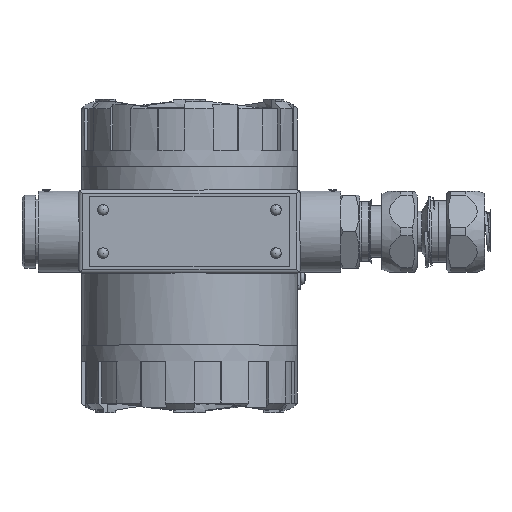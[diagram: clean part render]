
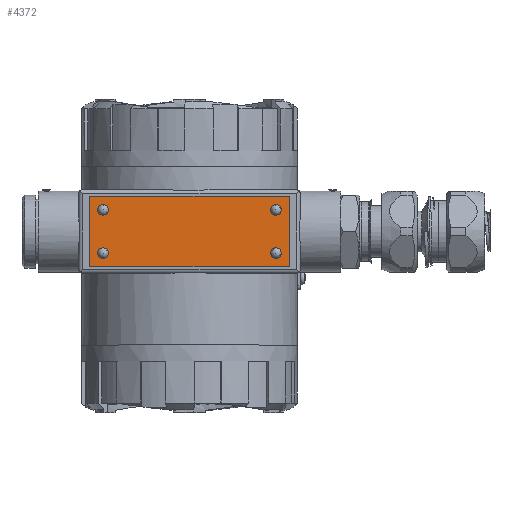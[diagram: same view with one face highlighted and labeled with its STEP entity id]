
A CAD part, top view. The second image highlights one B-rep face of the part: STEP entity #4372.
In plain terms, the highlighted planar face has unit normal (0, 0, 1).
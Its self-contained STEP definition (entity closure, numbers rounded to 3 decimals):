
#4372=ADVANCED_FACE('',(#125054,#125056,#125058,#125060,#125062),#125064,.T.);
#125054=FACE_BOUND('',#125055,.T.);
#125055=EDGE_LOOP('',(#442078,#442079,#442080,#442081));
#125056=FACE_BOUND('',#125057,.T.);
#125057=EDGE_LOOP('',(#442082,#442083));
#125058=FACE_BOUND('',#125059,.T.);
#125059=EDGE_LOOP('',(#442084,#442085));
#125060=FACE_BOUND('',#125061,.T.);
#125061=EDGE_LOOP('',(#442086,#442087));
#125062=FACE_BOUND('',#125063,.T.);
#125063=EDGE_LOOP('',(#442088,#442089));
#125064=PLANE('',#125065);
#125065=AXIS2_PLACEMENT_3D('',#125066,#125067,#125068);
#125066=CARTESIAN_POINT('',(0.,9.,158.5));
#125067=DIRECTION('',(0.,0.,1.));
#125068=DIRECTION('',(1.,0.,0.));
#442078=ORIENTED_EDGE('',*,*,#455154,.F.);
#442079=ORIENTED_EDGE('',*,*,#455164,.F.);
#442080=ORIENTED_EDGE('',*,*,#455161,.F.);
#442081=ORIENTED_EDGE('',*,*,#455158,.F.);
#442082=ORIENTED_EDGE('',*,*,#455143,.T.);
#442083=ORIENTED_EDGE('',*,*,#455142,.T.);
#442084=ORIENTED_EDGE('',*,*,#455148,.T.);
#442085=ORIENTED_EDGE('',*,*,#455149,.T.);
#442086=ORIENTED_EDGE('',*,*,#455152,.T.);
#442087=ORIENTED_EDGE('',*,*,#455153,.T.);
#442088=ORIENTED_EDGE('',*,*,#455139,.T.);
#442089=ORIENTED_EDGE('',*,*,#455138,.T.);
#455138=EDGE_CURVE('',#463121,#463122,#463123,.T.);
#455139=EDGE_CURVE('',#463122,#463121,#463124,.T.);
#455142=EDGE_CURVE('',#463129,#463130,#463131,.T.);
#455143=EDGE_CURVE('',#463130,#463129,#463132,.T.);
#455148=EDGE_CURVE('',#463141,#463142,#463143,.T.);
#455149=EDGE_CURVE('',#463142,#463141,#463144,.T.);
#455152=EDGE_CURVE('',#463149,#463150,#463151,.T.);
#455153=EDGE_CURVE('',#463150,#463149,#463152,.T.);
#455154=EDGE_CURVE('',#463153,#463154,#463155,.T.);
#455158=EDGE_CURVE('',#463154,#463161,#463162,.T.);
#455161=EDGE_CURVE('',#463161,#463166,#463167,.T.);
#455164=EDGE_CURVE('',#463166,#463153,#463171,.T.);
#463121=VERTEX_POINT('',#485962);
#463122=VERTEX_POINT('',#485963);
#463123=CIRCLE('',#485964,1.45);
#463124=CIRCLE('',#485968,1.45);
#463129=VERTEX_POINT('',#485982);
#463130=VERTEX_POINT('',#485983);
#463131=CIRCLE('',#485984,1.45);
#463132=CIRCLE('',#485988,1.45);
#463141=VERTEX_POINT('',#486012);
#463142=VERTEX_POINT('',#486013);
#463143=CIRCLE('',#486014,1.45);
#463144=CIRCLE('',#486018,1.45);
#463149=VERTEX_POINT('',#486032);
#463150=VERTEX_POINT('',#486033);
#463151=CIRCLE('',#486034,1.45);
#463152=CIRCLE('',#486038,1.45);
#463153=VERTEX_POINT('',#486042);
#463154=VERTEX_POINT('',#486043);
#463155=LINE('',#486044,#486045);
#463161=VERTEX_POINT('',#486058);
#463162=LINE('',#486059,#486060);
#463166=VERTEX_POINT('',#486069);
#463167=LINE('',#486070,#486071);
#463171=LINE('',#486080,#486081);
#485962=CARTESIAN_POINT('',(32.,-0.45,158.5));
#485963=CARTESIAN_POINT('',(33.45,1.,158.5));
#485964=AXIS2_PLACEMENT_3D('',#485965,#485966,#485967);
#485965=CARTESIAN_POINT('',(32.,1.,158.5));
#485966=DIRECTION('',(0.,0.,-1.));
#485967=DIRECTION('',(0.,-1.,0.));
#485968=AXIS2_PLACEMENT_3D('',#485969,#485970,#485971);
#485969=CARTESIAN_POINT('',(32.,1.,158.5));
#485970=DIRECTION('',(0.,0.,-1.));
#485971=DIRECTION('',(1.,0.,0.));
#485982=CARTESIAN_POINT('',(32.,18.45,158.5));
#485983=CARTESIAN_POINT('',(33.45,17.,158.5));
#485984=AXIS2_PLACEMENT_3D('',#485985,#485986,#485987);
#485985=CARTESIAN_POINT('',(32.,17.,158.5));
#485986=DIRECTION('',(0.,0.,-1.));
#485987=DIRECTION('',(0.,1.,0.));
#485988=AXIS2_PLACEMENT_3D('',#485989,#485990,#485991);
#485989=CARTESIAN_POINT('',(32.,17.,158.5));
#485990=DIRECTION('',(0.,0.,-1.));
#485991=DIRECTION('',(1.,0.,0.));
#486012=CARTESIAN_POINT('',(-33.45,17.,158.5));
#486013=CARTESIAN_POINT('',(-32.,18.45,158.5));
#486014=AXIS2_PLACEMENT_3D('',#486015,#486016,#486017);
#486015=CARTESIAN_POINT('',(-32.,17.,158.5));
#486016=DIRECTION('',(0.,0.,-1.));
#486017=DIRECTION('',(-1.,0.,0.));
#486018=AXIS2_PLACEMENT_3D('',#486019,#486020,#486021);
#486019=CARTESIAN_POINT('',(-32.,17.,158.5));
#486020=DIRECTION('',(0.,0.,-1.));
#486021=DIRECTION('',(0.,1.,0.));
#486032=CARTESIAN_POINT('',(-33.45,1.,158.5));
#486033=CARTESIAN_POINT('',(-32.,-0.45,158.5));
#486034=AXIS2_PLACEMENT_3D('',#486035,#486036,#486037);
#486035=CARTESIAN_POINT('',(-32.,1.,158.5));
#486036=DIRECTION('',(0.,0.,-1.));
#486037=DIRECTION('',(-1.,0.,0.));
#486038=AXIS2_PLACEMENT_3D('',#486039,#486040,#486041);
#486039=CARTESIAN_POINT('',(-32.,1.,158.5));
#486040=DIRECTION('',(0.,0.,-1.));
#486041=DIRECTION('',(0.,-1.,0.));
#486042=CARTESIAN_POINT('',(37.,22.,158.5));
#486043=CARTESIAN_POINT('',(37.,-4.,158.5));
#486044=CARTESIAN_POINT('',(37.,22.,158.5));
#486045=VECTOR('',#486046,1.);
#486046=DIRECTION('',(0.,-1.,0.));
#486058=CARTESIAN_POINT('',(-37.,-4.,158.5));
#486059=CARTESIAN_POINT('',(37.,-4.,158.5));
#486060=VECTOR('',#486061,1.);
#486061=DIRECTION('',(-1.,0.,0.));
#486069=CARTESIAN_POINT('',(-37.,22.,158.5));
#486070=CARTESIAN_POINT('',(-37.,-4.,158.5));
#486071=VECTOR('',#486072,1.);
#486072=DIRECTION('',(0.,1.,0.));
#486080=CARTESIAN_POINT('',(-37.,22.,158.5));
#486081=VECTOR('',#486082,1.);
#486082=DIRECTION('',(1.,0.,0.));
